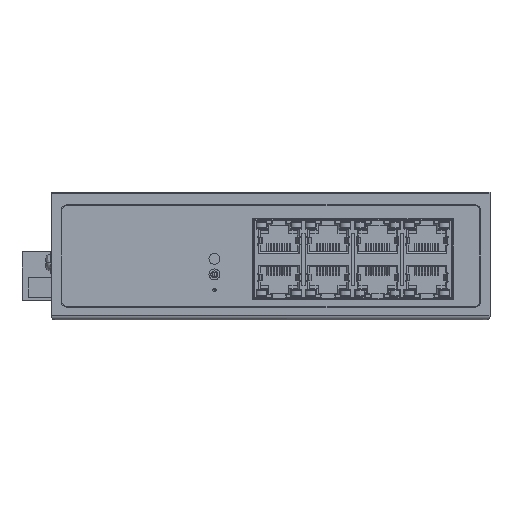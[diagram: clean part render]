
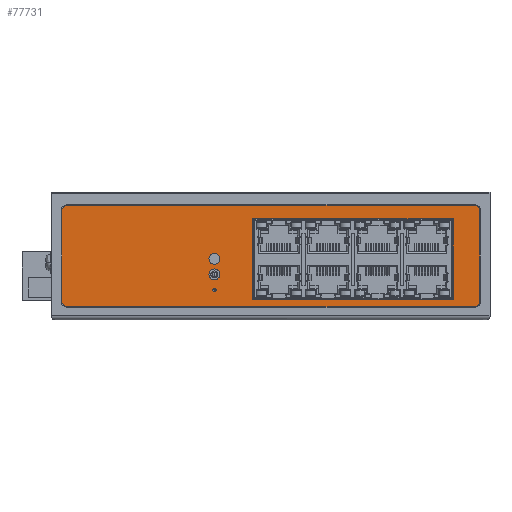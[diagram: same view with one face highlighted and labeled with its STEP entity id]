
A CAD part, front view. The second image highlights one B-rep face of the part: STEP entity #77731.
In plain terms, the highlighted planar face has unit normal (0, -1, 0).
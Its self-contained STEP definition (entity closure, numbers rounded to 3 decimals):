
#1685=CARTESIAN_POINT('',(135.,0.1,-6.));
#1686=DIRECTION('',(0.,-1.,0.));
#1687=DIRECTION('',(1.,0.,0.));
#1688=AXIS2_PLACEMENT_3D('',#1685,#1686,#1687);
#1690=DIRECTION('',(0.,0.,1.));
#1691=VECTOR('',#1690,28.8);
#1692=CARTESIAN_POINT('',(136.8,0.1,-34.8));
#1693=LINE('',#1692,#1691);
#1694=CARTESIAN_POINT('',(135.,0.1,-34.8));
#1695=DIRECTION('',(0.,-1.,0.));
#1696=DIRECTION('',(0.,0.,-1.));
#1697=AXIS2_PLACEMENT_3D('',#1694,#1695,#1696);
#1699=DIRECTION('',(1.,0.,0.));
#1700=VECTOR('',#1699,130.);
#1701=CARTESIAN_POINT('',(5.,0.1,-36.6));
#1702=LINE('',#1701,#1700);
#1703=CARTESIAN_POINT('',(5.,0.1,-34.8));
#1704=DIRECTION('',(0.,-1.,0.));
#1705=DIRECTION('',(-1.,0.,0.));
#1706=AXIS2_PLACEMENT_3D('',#1703,#1704,#1705);
#1708=DIRECTION('',(0.,0.,-1.));
#1709=VECTOR('',#1708,28.8);
#1710=CARTESIAN_POINT('',(3.2,0.1,-6.));
#1711=LINE('',#1710,#1709);
#1712=CARTESIAN_POINT('',(5.,0.1,-6.));
#1713=DIRECTION('',(0.,-1.,0.));
#1714=DIRECTION('',(0.,0.,1.));
#1715=AXIS2_PLACEMENT_3D('',#1712,#1713,#1714);
#1717=DIRECTION('',(-1.,0.,0.));
#1718=VECTOR('',#1717,130.);
#1719=CARTESIAN_POINT('',(135.,0.1,-4.2));
#1720=LINE('',#1719,#1718);
#1721=DIRECTION('',(0.,0.,-1.));
#1722=VECTOR('',#1721,25.8);
#1723=CARTESIAN_POINT('',(64.09,0.1,-8.5));
#1724=LINE('',#1723,#1722);
#1725=DIRECTION('',(1.,0.,0.));
#1726=VECTOR('',#1725,64.15);
#1727=CARTESIAN_POINT('',(64.09,0.1,-34.3));
#1728=LINE('',#1727,#1726);
#1729=DIRECTION('',(0.,0.,1.));
#1730=VECTOR('',#1729,25.8);
#1731=CARTESIAN_POINT('',(128.24,0.1,-34.3));
#1732=LINE('',#1731,#1730);
#1733=DIRECTION('',(-1.,0.,0.));
#1734=VECTOR('',#1733,64.15);
#1735=CARTESIAN_POINT('',(128.24,0.1,-8.5));
#1736=LINE('',#1735,#1734);
#1737=CARTESIAN_POINT('',(51.961,0.1,-21.3));
#1738=DIRECTION('',(0.,-1.,0.));
#1739=DIRECTION('',(1.,0.,0.));
#1740=AXIS2_PLACEMENT_3D('',#1737,#1738,#1739);
#1742=CARTESIAN_POINT('',(51.961,0.1,-21.3));
#1743=DIRECTION('',(0.,-1.,0.));
#1744=DIRECTION('',(-1.,0.,0.));
#1745=AXIS2_PLACEMENT_3D('',#1742,#1743,#1744);
#1747=CARTESIAN_POINT('',(51.961,0.1,-26.3));
#1748=DIRECTION('',(0.,-1.,0.));
#1749=DIRECTION('',(1.,0.,0.));
#1750=AXIS2_PLACEMENT_3D('',#1747,#1748,#1749);
#1752=CARTESIAN_POINT('',(51.961,0.1,-26.3));
#1753=DIRECTION('',(0.,-1.,0.));
#1754=DIRECTION('',(-1.,0.,0.));
#1755=AXIS2_PLACEMENT_3D('',#1752,#1753,#1754);
#1757=CARTESIAN_POINT('',(51.961,0.1,-31.291));
#1758=DIRECTION('',(0.,-1.,0.));
#1759=DIRECTION('',(0.,0.,1.));
#1760=AXIS2_PLACEMENT_3D('',#1757,#1758,#1759);
#1762=CARTESIAN_POINT('',(51.961,0.1,-31.291));
#1763=DIRECTION('',(0.,-1.,0.));
#1764=DIRECTION('',(0.,0.,-1.));
#1765=AXIS2_PLACEMENT_3D('',#1762,#1763,#1764);
#57789=CARTESIAN_POINT('',(136.8,0.1,-6.));
#57790=CARTESIAN_POINT('',(135.,0.1,-4.2));
#57791=VERTEX_POINT('',#57789);
#57792=VERTEX_POINT('',#57790);
#57793=CARTESIAN_POINT('',(5.,0.1,-4.2));
#57794=VERTEX_POINT('',#57793);
#57795=CARTESIAN_POINT('',(3.2,0.1,-6.));
#57796=VERTEX_POINT('',#57795);
#57797=CARTESIAN_POINT('',(3.2,0.1,-34.8));
#57798=VERTEX_POINT('',#57797);
#57799=CARTESIAN_POINT('',(5.,0.1,-36.6));
#57800=VERTEX_POINT('',#57799);
#57801=CARTESIAN_POINT('',(135.,0.1,-36.6));
#57802=VERTEX_POINT('',#57801);
#57803=CARTESIAN_POINT('',(136.8,0.1,-34.8));
#57804=VERTEX_POINT('',#57803);
#57813=CARTESIAN_POINT('',(64.09,0.1,-8.5));
#57814=CARTESIAN_POINT('',(64.09,0.1,-34.3));
#57815=VERTEX_POINT('',#57813);
#57816=VERTEX_POINT('',#57814);
#57817=CARTESIAN_POINT('',(128.24,0.1,-34.3));
#57818=VERTEX_POINT('',#57817);
#57819=CARTESIAN_POINT('',(128.24,0.1,-8.5));
#57820=VERTEX_POINT('',#57819);
#57829=CARTESIAN_POINT('',(53.711,0.1,-21.3));
#57830=CARTESIAN_POINT('',(50.211,0.1,-21.3));
#57831=VERTEX_POINT('',#57829);
#57832=VERTEX_POINT('',#57830);
#57833=CARTESIAN_POINT('',(53.711,0.1,-26.3));
#57834=CARTESIAN_POINT('',(50.211,0.1,-26.3));
#57835=VERTEX_POINT('',#57833);
#57836=VERTEX_POINT('',#57834);
#71279=CARTESIAN_POINT('',(51.961,0.1,-30.752));
#71280=CARTESIAN_POINT('',(51.961,0.1,-31.829));
#71281=VERTEX_POINT('',#71279);
#71282=VERTEX_POINT('',#71280);
#77684=CARTESIAN_POINT('',(0.,0.1,0.));
#77685=DIRECTION('',(0.,-1.,0.));
#77686=DIRECTION('',(1.,0.,0.));
#77687=AXIS2_PLACEMENT_3D('',#77684,#77685,#77686);
#77688=PLANE('',#77687);
#77690=ORIENTED_EDGE('',*,*,#77689,.F.);
#77692=ORIENTED_EDGE('',*,*,#77691,.F.);
#77694=ORIENTED_EDGE('',*,*,#77693,.F.);
#77696=ORIENTED_EDGE('',*,*,#77695,.F.);
#77698=ORIENTED_EDGE('',*,*,#77697,.F.);
#77700=ORIENTED_EDGE('',*,*,#77699,.F.);
#77702=ORIENTED_EDGE('',*,*,#77701,.F.);
#77704=ORIENTED_EDGE('',*,*,#77703,.F.);
#77705=EDGE_LOOP('',(#77690,#77692,#77694,#77696,#77698,#77700,#77702,#77704));
#77706=FACE_OUTER_BOUND('',#77705,.F.);
#77707=ORIENTED_EDGE('',*,*,#77636,.T.);
#77708=ORIENTED_EDGE('',*,*,#77651,.T.);
#77709=ORIENTED_EDGE('',*,*,#77665,.T.);
#77710=ORIENTED_EDGE('',*,*,#77678,.T.);
#77711=EDGE_LOOP('',(#77707,#77708,#77709,#77710));
#77712=FACE_BOUND('',#77711,.F.);
#77714=ORIENTED_EDGE('',*,*,#77713,.T.);
#77716=ORIENTED_EDGE('',*,*,#77715,.T.);
#77717=EDGE_LOOP('',(#77714,#77716));
#77718=FACE_BOUND('',#77717,.F.);
#77720=ORIENTED_EDGE('',*,*,#77719,.T.);
#77722=ORIENTED_EDGE('',*,*,#77721,.T.);
#77723=EDGE_LOOP('',(#77720,#77722));
#77724=FACE_BOUND('',#77723,.F.);
#77726=ORIENTED_EDGE('',*,*,#77725,.T.);
#77728=ORIENTED_EDGE('',*,*,#77727,.T.);
#77729=EDGE_LOOP('',(#77726,#77728));
#77730=FACE_BOUND('',#77729,.F.);
#77731=ADVANCED_FACE('',(#77706,#77712,#77718,#77724,#77730),#77688,.T.);
#1689=CIRCLE('',#1688,1.8);
#1698=CIRCLE('',#1697,1.8);
#1707=CIRCLE('',#1706,1.8);
#1716=CIRCLE('',#1715,1.8);
#1741=CIRCLE('',#1740,1.75);
#1746=CIRCLE('',#1745,1.75);
#1751=CIRCLE('',#1750,1.75);
#1756=CIRCLE('',#1755,1.75);
#1761=CIRCLE('',#1760,0.539);
#1766=CIRCLE('',#1765,0.539);
#77636=EDGE_CURVE('',#57815,#57816,#1724,.T.);
#77651=EDGE_CURVE('',#57816,#57818,#1728,.T.);
#77665=EDGE_CURVE('',#57818,#57820,#1732,.T.);
#77678=EDGE_CURVE('',#57820,#57815,#1736,.T.);
#77689=EDGE_CURVE('',#57791,#57792,#1689,.T.);
#77691=EDGE_CURVE('',#57804,#57791,#1693,.T.);
#77693=EDGE_CURVE('',#57802,#57804,#1698,.T.);
#77695=EDGE_CURVE('',#57800,#57802,#1702,.T.);
#77697=EDGE_CURVE('',#57798,#57800,#1707,.T.);
#77699=EDGE_CURVE('',#57796,#57798,#1711,.T.);
#77701=EDGE_CURVE('',#57794,#57796,#1716,.T.);
#77703=EDGE_CURVE('',#57792,#57794,#1720,.T.);
#77713=EDGE_CURVE('',#57831,#57832,#1741,.T.);
#77715=EDGE_CURVE('',#57832,#57831,#1746,.T.);
#77719=EDGE_CURVE('',#57835,#57836,#1751,.T.);
#77721=EDGE_CURVE('',#57836,#57835,#1756,.T.);
#77725=EDGE_CURVE('',#71281,#71282,#1761,.T.);
#77727=EDGE_CURVE('',#71282,#71281,#1766,.T.);
